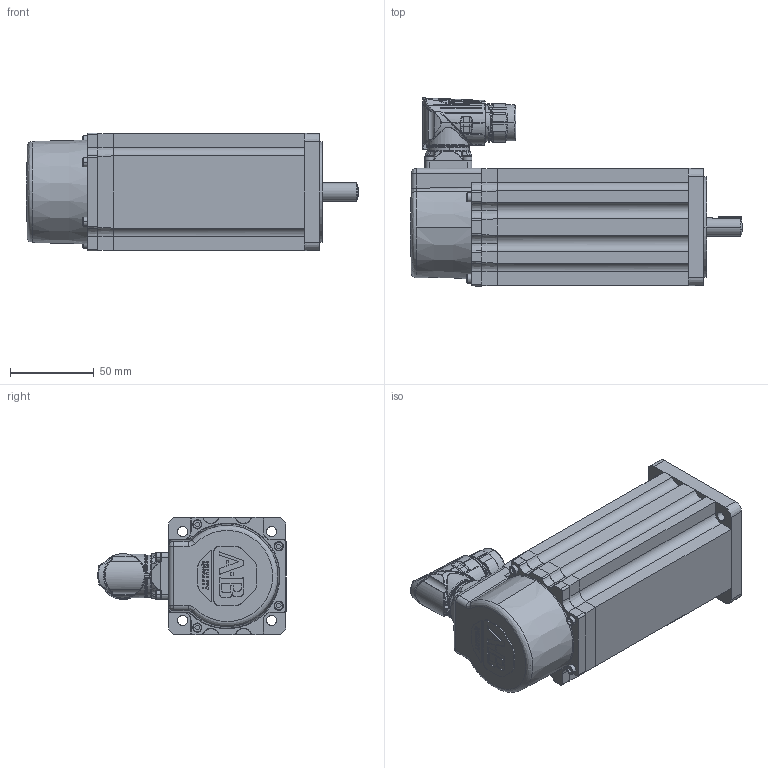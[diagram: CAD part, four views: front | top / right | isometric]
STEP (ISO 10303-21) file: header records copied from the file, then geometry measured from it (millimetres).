
FILE_DESCRIPTION (( 'STEP AP214' ), '1' );
FILE_NAME ('Rockwell Automation-$PARTNUMBER.STEP', '2014-02-13T16:53:48', ( 'Windows User' ), ( '' ), 'SwSTEP 2.0', 'SolidWorks 2014', '' );
FILE_SCHEMA (( 'AUTOMOTIVE_DESIGN' ));
Length unit declared in the file: inch
Products named in the file (27): Rockwell Automation-$PARTNUMBER_Rockwell Automation-VPL-x0753x-xJx2xx_91290A115_ANY; Rockwell Automation-$PARTNUMBER_Rockwell Automation-VPL-x0753x-xJx2xx_M23_Connector; Rockwell Automation-$PARTNUMBER_Rockwell Automation-VPL-x0753x-xJx2xx_10000014326-M23_ASM; Rockwell Automation-$PARTNUMBER_Rockwell Automation-VPL-x0753x-xJx2xx_10000014326-1; Rockwell Automation-$PARTNUMBER_Rockwell Automation-VPL-x0753x-xJx2xx_10000014325-1; Rockwell Automation-$PARTNUMBER_Rockwell Automation-VPL-x0753x-xJx2xx_10000540833; Rockwell Automation-$PARTNUMBER_Rockwell Automation-VPL-x0753x-xJx2xx_FRONT_without key_1; Rockwell Automation-$PARTNUMBER_Rockwell Automation-VPL-x0753x-xJx2xx_FRONT_1; Rockwell Automation-$PARTNUMBER_Rockwell Automation-VPL-x0753x-xJx2xx_tab; Rockwell Automation-$PARTNUMBER_Rockwell Automation-VPL-x0753x-xJx2xx_vpl-075_753; Rockwell Automation-$PARTNUMBER_Rockwell Automation-VPL-x0753x-xJx2xx_10000169222_ANY_1; Rockwell Automation-$PARTNUMBER_Rockwell Automation-VPL-x0753x-xJx2xx_FRONT_withkey_075_shaft_Shaft_J_3_2; Rockwell Automation-$PARTNUMBER_Rockwell Automation-VPL-x0753x-xJx2xx_10000206536_ASM_ANY_ASM_1; Rockwell Automation-$PARTNUMBER_Rockwell Automation-VPL-x0753x-xJx2xx_0011-G402_ANY_2; Rockwell Automation-$PARTNUMBER_Rockwell Automation-VPL-x0753x-xJx2xx_10000206535_AF0_ANY_1; Rockwell Automation-$PARTNUMBER_Rockwell Automation-VPL-x0753x-xJx2xx_REAR_ASM_ANY_ASM; Rockwell Automation-$PARTNUMBER_Rockwell Automation-VPL-x0753x-xJx2xx_10000210273_AF2_ANY_1; Rockwell Automation-$PARTNUMBER_Rockwell Automation-VPL-x0753x-xJx2xx_PRT0002; Rockwell Automation-$PARTNUMBER_Rockwell Automation-VPL-x0753x-xJx2xx_10000213398_ANY_1; Rockwell Automation-$PARTNUMBER_Rockwell Automation-VPL-x0753x-xJx2xx_PRT0001; Rockwell Automation-$PARTNUMBER_Rockwell Automation-VPL-x0753x-xJx2xx_vpl-middle-075_0753; Rockwell Automation-$PARTNUMBER_Rockwell Automation-VPL-x0753x-xJx2xx_10000220495_ASM_1_ANY_ASM; Rockwell Automation-$PARTNUMBER_Rockwell Automation-VPL-x0753x-xJx2xx_10000206533_AF0_ANY; Rockwell Automation-$PARTNUMBER; Rockwell Automation-$PARTNUMBER_Rockwell Automation-VPL-x0753x-xJx2xx_10000220495_ASM_ANY; Rockwell Automation-$PARTNUMBER_Rockwell Automation-VPL-x0753x-xJx2xx_10000205606_AF31_ANY; Rockwell Automation-$PARTNUMBER_Rockwell Automation-VPL-x0753x-xJx2xx_10000218021_ANY
Assembly tree (36 placements, depth 6):
  Rockwell Automation-$PARTNUMBER_Rockwell Automation-VPL-x0753x-xJx2xx_tab
  Rockwell Automation-$PARTNUMBER
    Rockwell Automation-$PARTNUMBER_Rockwell Automation-VPL-x0753x-xJx2xx_vpl-075_753
      Rockwell Automation-$PARTNUMBER_Rockwell Automation-VPL-x0753x-xJx2xx_vpl-middle-075_0753
      Rockwell Automation-$PARTNUMBER_Rockwell Automation-VPL-x0753x-xJx2xx_FRONT_without key_1
        Rockwell Automation-$PARTNUMBER_Rockwell Automation-VPL-x0753x-xJx2xx_FRONT_1
          Rockwell Automation-$PARTNUMBER_Rockwell Automation-VPL-x0753x-xJx2xx_10000213398_ANY_1
          Rockwell Automation-$PARTNUMBER_Rockwell Automation-VPL-x0753x-xJx2xx_10000206536_ASM_ANY_ASM_1
            Rockwell Automation-$PARTNUMBER_Rockwell Automation-VPL-x0753x-xJx2xx_10000210273_AF2_ANY_1
            Rockwell Automation-$PARTNUMBER_Rockwell Automation-VPL-x0753x-xJx2xx_10000206535_AF0_ANY_1
          Rockwell Automation-$PARTNUMBER_Rockwell Automation-VPL-x0753x-xJx2xx_10000169222_ANY_1  x4
      Rockwell Automation-$PARTNUMBER_Rockwell Automation-VPL-x0753x-xJx2xx_REAR_ASM_ANY_ASM
        Rockwell Automation-$PARTNUMBER_Rockwell Automation-VPL-x0753x-xJx2xx_M23_Connector
          Rockwell Automation-$PARTNUMBER_Rockwell Automation-VPL-x0753x-xJx2xx_10000540833
          Rockwell Automation-$PARTNUMBER_Rockwell Automation-VPL-x0753x-xJx2xx_10000014325-1
          Rockwell Automation-$PARTNUMBER_Rockwell Automation-VPL-x0753x-xJx2xx_10000014326-M23_ASM
            Rockwell Automation-$PARTNUMBER_Rockwell Automation-VPL-x0753x-xJx2xx_10000014326-1
        Rockwell Automation-$PARTNUMBER_Rockwell Automation-VPL-x0753x-xJx2xx_91290A115_ANY  x4
        Rockwell Automation-$PARTNUMBER_Rockwell Automation-VPL-x0753x-xJx2xx_10000218021_ANY  x2
        Rockwell Automation-$PARTNUMBER_Rockwell Automation-VPL-x0753x-xJx2xx_10000220495_ASM_1_ANY_ASM
          Rockwell Automation-$PARTNUMBER_Rockwell Automation-VPL-x0753x-xJx2xx_10000205606_AF31_ANY
          Rockwell Automation-$PARTNUMBER_Rockwell Automation-VPL-x0753x-xJx2xx_10000220495_ASM_ANY  x2
          Rockwell Automation-$PARTNUMBER_Rockwell Automation-VPL-x0753x-xJx2xx_10000206533_AF0_ANY
        Rockwell Automation-$PARTNUMBER_Rockwell Automation-VPL-x0753x-xJx2xx_PRT0001  x4
        Rockwell Automation-$PARTNUMBER_Rockwell Automation-VPL-x0753x-xJx2xx_PRT0002
      Rockwell Automation-$PARTNUMBER_Rockwell Automation-VPL-x0753x-xJx2xx_0011-G402_ANY_2
      Rockwell Automation-$PARTNUMBER_Rockwell Automation-VPL-x0753x-xJx2xx_FRONT_withkey_075_shaft_Shaft_J_3_2
Bounding box: 197.9 x 112.23 x 70.31 mm (x, y, z)
Volume: 274805.6 mm3; surface area: 173682.4 mm2
Topology: 22 solids, 42 shells, 3125 faces, 8577 edges, 5556 vertices
Faces by surface type: cylinder 1013, plane 942, bspline 786, cone 382, torus 2
Entity records: 161226 total; most frequent: CARTESIAN_POINT 88035, ORIENTED_EDGE 14407, DIRECTION 8514, EDGE_CURVE 7222, VERTEX_POINT 4739, B_SPLINE_CURVE_WITH_KNOTS 3661, AXIS2_PLACEMENT_3D 3188, EDGE_LOOP 2769
